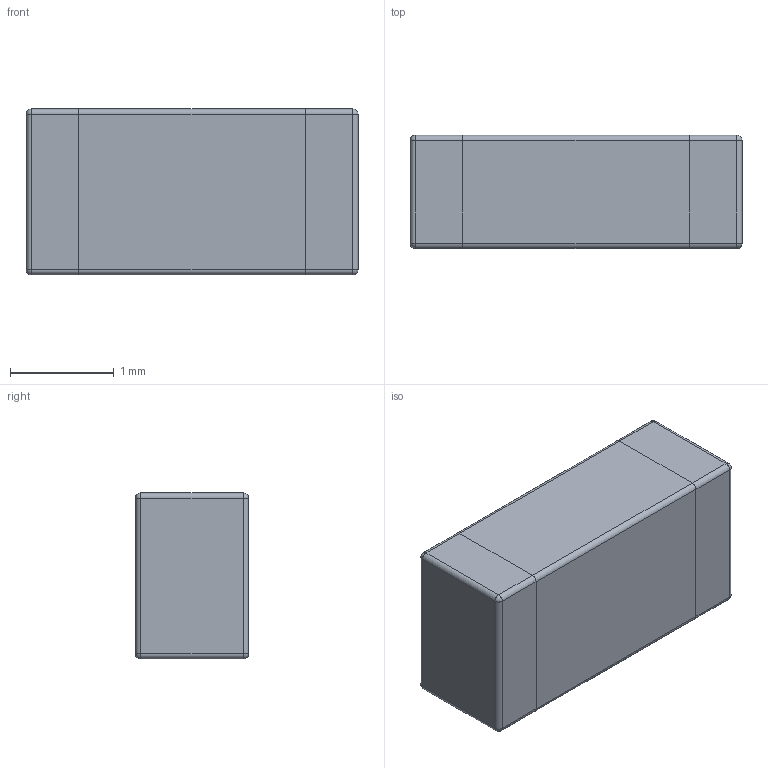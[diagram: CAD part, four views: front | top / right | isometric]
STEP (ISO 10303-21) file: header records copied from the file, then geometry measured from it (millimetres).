
FILE_DESCRIPTION (( 'STEP AP214' ), '1' );
FILE_NAME ( 'FUSC320X160X109L51.STEP', '2021-10-06T06:49:14', ( '' ), ( '' ), '', '©2017 PCB Libraries, Inc.', '' );
FILE_SCHEMA (( 'AUTOMOTIVE_DESIGN' ));
Length unit declared in the file: millimetre
Products named in the file (1): FUSC320X160X109L51
Bounding box: 3.2 x 1.09 x 1.6 mm (x, y, z)
Volume: 5.6 mm3; surface area: 27.2 mm2
Topology: 3 solids, 3 shells, 46 faces, 104 edges, 56 vertices
Faces by surface type: cylinder 20, plane 18, sphere 8
Entity records: 1394 total; most frequent: DIRECTION 230, CARTESIAN_POINT 199, ORIENTED_EDGE 192, EDGE_CURVE 96, AXIS2_PLACEMENT_3D 87, VERTEX_POINT 56, VECTOR 56, LINE 56
